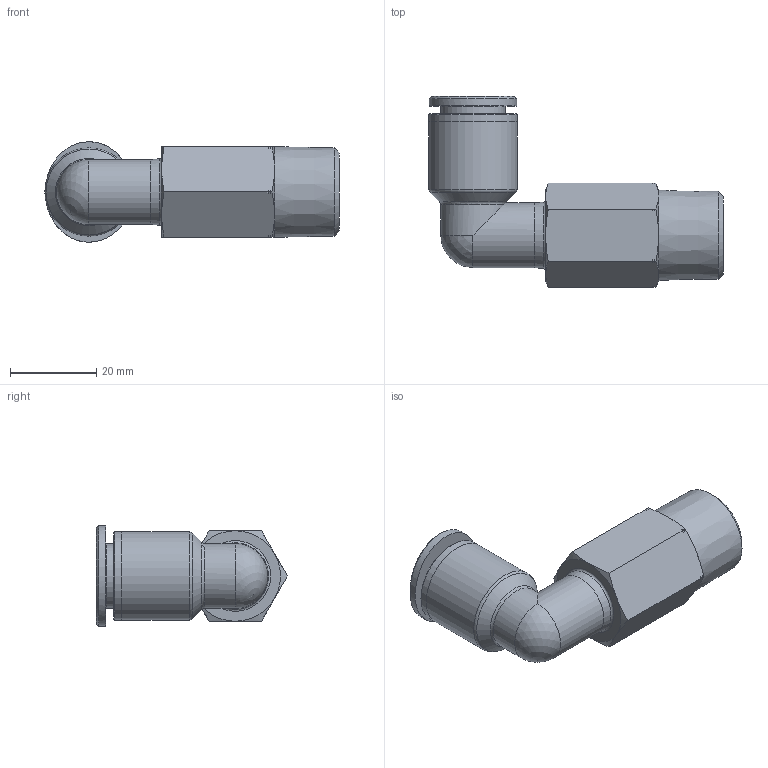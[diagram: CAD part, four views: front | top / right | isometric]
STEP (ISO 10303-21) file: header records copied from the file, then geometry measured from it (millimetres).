
FILE_DESCRIPTION((''),'2;1');
FILE_NAME('C:\Users\user0117\Desktop\김진일\G-FITTING INCH\1-2\G-FITTING INCH (STEP)\GPLL 1_2-R04.stp','2020-04-24T16:22:00',('user0117'),(''),'Autodesk Inventor 2013','Autodesk Inventor 2013','');
FILE_SCHEMA(('AUTOMOTIVE_DESIGN { 1 0 10303 214 1 1 1 1 }'));
Length unit declared in the file: millimetre
Products named in the file (6): GPLL 1_2-R04; GPLL BODY 1_2-R04(BRASS); GPL BODY 1-2(PLASTIC); G-COLLAR 1-2L; COLLAR G1-2L; SLEEVE G1-2
Assembly tree (5 placements, depth 3):
  GPLL 1_2-R04
    GPLL BODY 1_2-R04(BRASS)
    GPL BODY 1-2(PLASTIC)
    G-COLLAR 1-2L
      COLLAR G1-2L
      SLEEVE G1-2
Bounding box: 68.3 x 44.32 x 23.29 mm (x, y, z)
Volume: 17335.6 mm3; surface area: 11183.8 mm2
Topology: 4 solids, 4 shells, 369 faces, 1021 edges, 673 vertices
Faces by surface type: plane 288, cone 46, cylinder 17, bspline 13, torus 3, sphere 2
Full cylindrical faces by diameter (mm): 9.5 x1, 10 x2, 13 x3, 13.5 x1, 14.1 x1, 15 x2, 20.5 x2
Entity records: 11796 total; most frequent: CARTESIAN_POINT 2598, ORIENTED_EDGE 1966, DIRECTION 1688, EDGE_CURVE 983, VECTOR 810, LINE 810, VERTEX_POINT 663, AXIS2_PLACEMENT_3D 439
